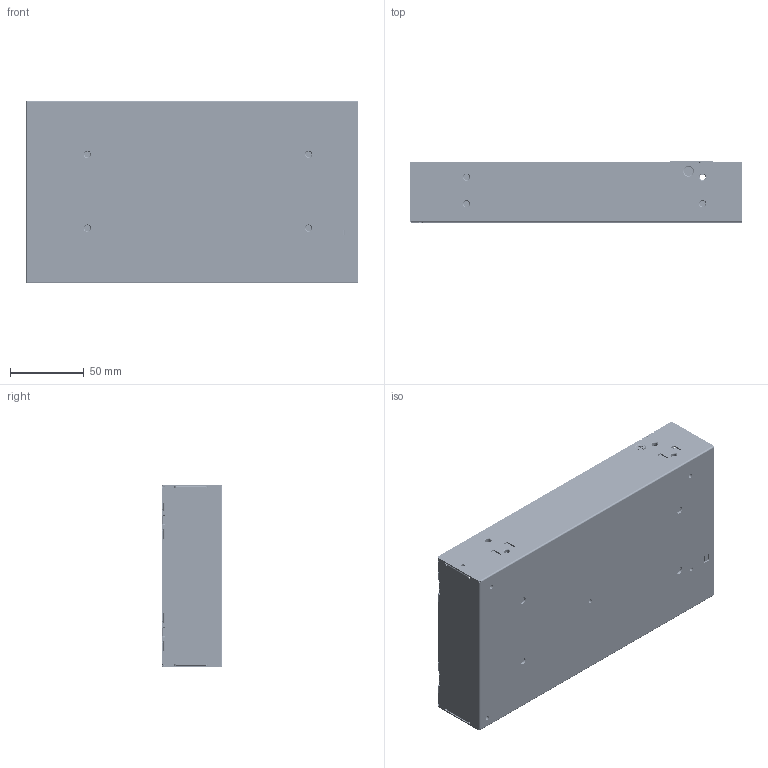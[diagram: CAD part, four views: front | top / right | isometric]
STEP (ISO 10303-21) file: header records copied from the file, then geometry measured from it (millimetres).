
FILE_DESCRIPTION((''),'2;1');
FILE_NAME('PMT-12V600W2BR_20250825_ASM_ASM','2026-07-08T11:16:10',('ALBERT.LI'),(''),'CREO PARAMETRIC BY PTC INC, 2024014','CREO PARAMETRIC BY PTC INC, 2024014','');
FILE_SCHEMA(('CONFIG_CONTROL_DESIGN','GEOMETRIC_VALIDATION_PROPERTIES_MIM'));
Products named in the file (127): CHASSIS_1_1; STANF-OFF-M3-4_3_1_1; STANF-OFF-M3_5_5_1_1; CHASSIS_STANDOFF_ASM_1_ASM_1_ASM; 337731030000_ASM_1_ASM; INSULATOR-BOTTOM_1; BOARD_1; 0313000032-BOBY_1_1_2_3_1; 0313000032-COATING_1_1_2_3_1; 0311072032_ASM_1_1_2_3_ASM_ASM__ASM; 0311072032_ASM_1_ASM; RJ6_ASM_1_ASM; AI6_17_ASM_1; AI6_22_ASM_1; AI6_11_ASM_1; A2512B00-2P-BS_1; BS064098-KK_1; 3072644734_ASM_1_ASM; CN101_ASM_1_ASM; 0910301316_NTC14_5X6X17_5D08P7_; NTC2_ASM_1_ASM; 2921052335_P15_1; FB46_ASM_1_ASM; 0311004001_1206-21_1_1; 0311004001_1206-21_2_1; 0311004001_1206-21_3_1; 0311004001_1206-21_4_1; 0311004001_1206-21_ASM_1_ASM; RJ113_ASM_1_ASM; 204840750107_1; D105_ASM_1_ASM; 0341041342-BODY_1; 0341041342-COATING_1; 0341041342_ASM_1_ASM; RJ112_ASM_1_ASM; RJ111_ASM_1_ASM; RJ110_ASM_1_ASM; RJ109_ASM_1_ASM; RJ101_ASM_1_ASM; RJ100_ASM_1_ASM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
Assembly tree (150 placements, depth 10):
  PMT-12V600W2BR_20250825_ASM_ASM
    PMT-12V600W2BR_20250825_ASM_1_ASM
      337731030000_ASM_1_ASM
        CHASSIS_STANDOFF_ASM_1_ASM_1_ASM
          CHASSIS_1_1
          STANF-OFF-M3-4_3_1_1  x3
          STANF-OFF-M3_5_5_1_1  x2
      INSULATOR-BOTTOM_1
      PMT-12V600W2BRR0C3_ASM_1_ASM
        PCB_ASM_1_ASM
          BOARD_1
          RJ6_ASM_1_ASM
            0311072032_ASM_1_ASM
              0311072032_ASM_1_1_2_3_ASM_ASM__ASM
                0313000032-BOBY_1_1_2_3_1
                0313000032-COATING_1_1_2_3_1
          AI6_17_ASM_1
          AI6_22_ASM_1
          AI6_11_ASM_1
          CN101_ASM_1_ASM
            3072644734_ASM_1_ASM
              A2512B00-2P-BS_1
              BS064098-KK_1  x2
          NTC2_ASM_1_ASM
            0910301316_NTC14_5X6X17_5D08P7_
          FB46_ASM_1_ASM
            2921052335_P15_1
          RJ113_ASM_1_ASM
            0311004001_1206-21_ASM_1_ASM
              0311004001_1206-21_1_1
              0311004001_1206-21_2_1
              0311004001_1206-21_3_1
              0311004001_1206-21_4_1
          D105_ASM_1_ASM
            204840750107_1
          RJ112_ASM_1_ASM
            0341041342_ASM_1_ASM
              0341041342-BODY_1
              0341041342-COATING_1
          RJ111_ASM_1_ASM
            0311004001_1206-21_ASM_1_ASM
              0311004001_1206-21_1_1
              0311004001_1206-21_2_1
              0311004001_1206-21_3_1
              0311004001_1206-21_4_1
          RJ110_ASM_1_ASM
            0341041342_ASM_1_ASM
              0341041342-BODY_1
              0341041342-COATING_1
          RJ109_ASM_1_ASM
            0341041342_ASM_1_ASM
              0341041342-BODY_1
              0341041342-COATING_1
          RJ101_ASM_1_ASM
            0341041342_ASM_1_ASM
              0341041342-BODY_1
              0341041342-COATING_1
          RJ100_ASM_1_ASM
            0311004001_1206-21_ASM_1_ASM
              0311004001_1206-21_1_1
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Bounding box: 225 x 41.15 x 124 mm (x, y, z)
Volume: 157258 mm3; surface area: 363061.8 mm2
Topology: 99 solids, 171 shells, 5735 faces, 16082 edges, 10593 vertices
Faces by surface type: plane 3289, cylinder 1630, bspline 488, torus 170, cone 128, sphere 24, extrusion 6
Entity records: 262893 total; most frequent: CARTESIAN_POINT 80295, ORIENTED_EDGE 28552, DIRECTION 25461, EDGE_CURVE 14357, PRESENTATION_STYLE_ASSIGNMENT 13648, STYLED_ITEM 12907, CURVE_STYLE 12344, VERTEX_POINT 9469
